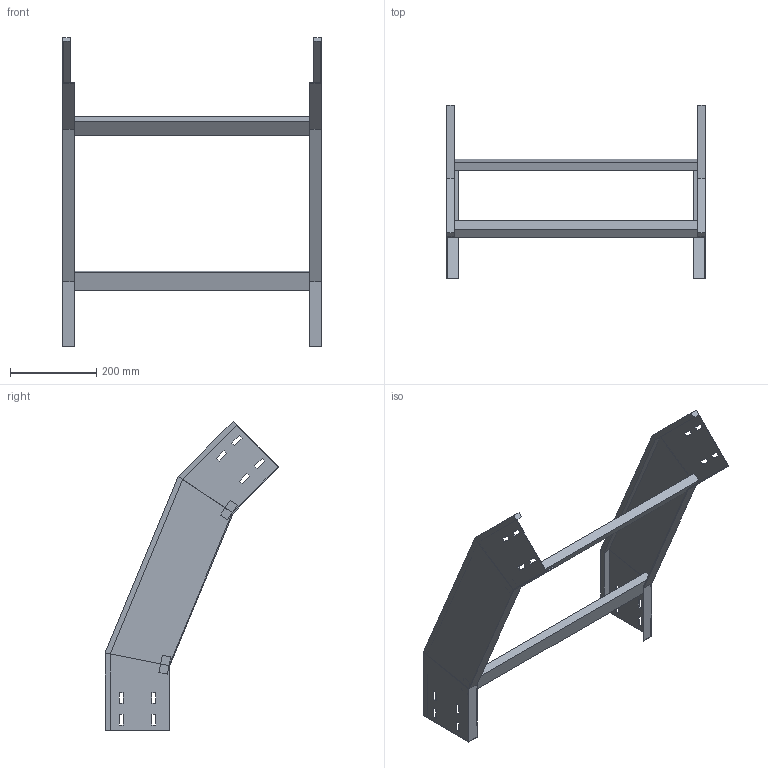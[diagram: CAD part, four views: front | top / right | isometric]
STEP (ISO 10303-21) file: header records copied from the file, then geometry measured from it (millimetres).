
FILE_DESCRIPTION (( 'STEP AP214' ), '1' );
FILE_NAME ('34J5F600.step', '2025-02-21T16:22:11', ( '' ), ( '' ), 'SwSTEP 2.0', 'SolidWorks 2023', '' );
FILE_SCHEMA (( 'AUTOMOTIVE_DESIGN' ));
Length unit declared in the file: millimetre
Products named in the file (3): LONGH.DISCESA_45°_H150_R500; 34J5F600; TRAVERSINO_600
Assembly tree (4 placements, depth 2):
  34J5F600
    LONGH.DISCESA_45°_H150_R500  x2
    TRAVERSINO_600  x2
Bounding box: 600 x 402.63 x 715.98 mm (x, y, z)
Volume: 1778572 mm3; surface area: 715585.9 mm2
Topology: 4 solids, 4 shells, 128 faces, 328 edges, 208 vertices
Faces by surface type: plane 128
Entity records: 2016 total; most frequent: CARTESIAN_POINT 339, ORIENTED_EDGE 328, DIRECTION 306, VECTOR 164, EDGE_CURVE 164, LINE 164, VERTEX_POINT 104, EDGE_LOOP 80
